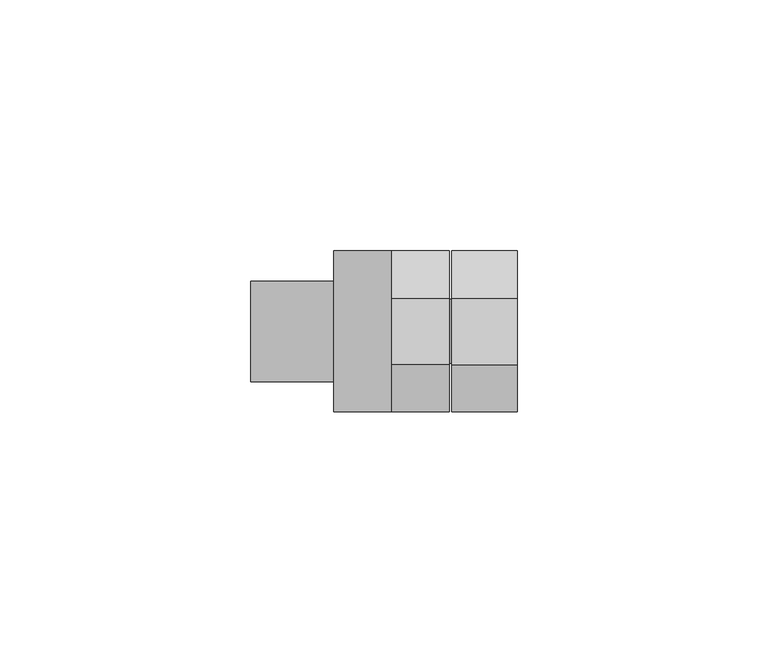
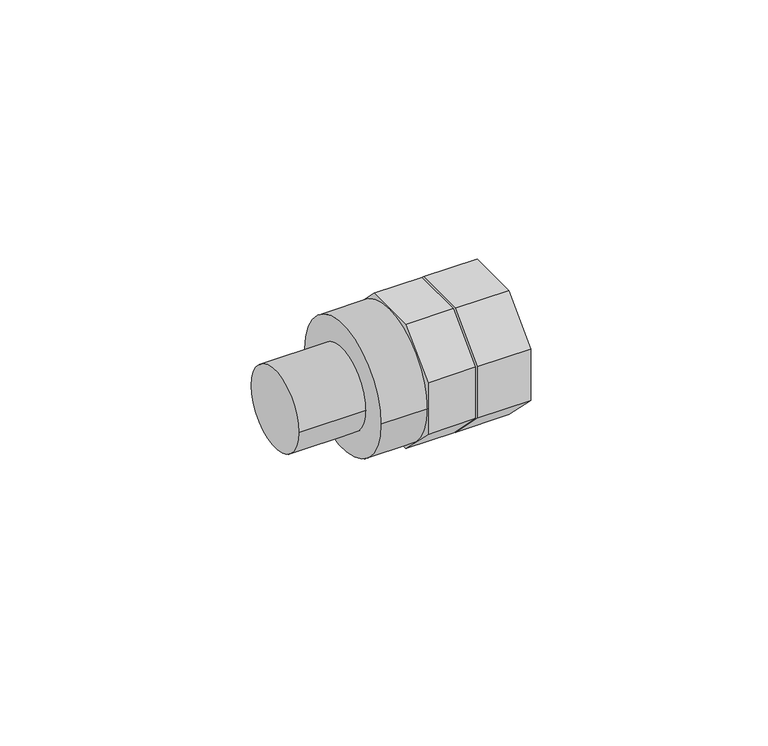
"""IFC4 building model written with IfcOpenShell, lengths in millimetres: pipe fitting geometry, PipeFitting_GirpiHTA_CPVC_AdaptorNipplesB_ForExpansionJoints : PipeFitting_GirpiHTA_CPVC_AdaptorNipplesB_ForExpansionJoints."""

from ifc_helpers import new_model, si_unit, point, frame, origin, origin_2d, place, context, project, spatial, polyline, circle_curve, trimmed, segment, composite_curve, outline, extrude, source, transform, mapped, element, save


def pipe_fitting_7ebbfda9(model_context):
    return source(origin(), model_context, "Body", "SweptSolid", [
        extrude(outline(polyline([(16.0, 6.627417), (16.0, -6.627417), (6.627417, -16.0), (-6.627417, -16.0), (-16.0, -6.627417), (-16.0, 6.627417), (-6.627417, 16.0), (6.627417, 16.0), (16.0, 6.627417)])), frame((31.7187435, 0.0, 0.0), z_axis=(1.0, 0.0, 0.0), x_axis=(0.0, 1.0, 0.0)), (0.0, 0.0, 1.0), 13.0312565),
        extrude(outline(composite_curve([segment(trimmed(circle_curve(origin_2d(), 6.35), [point((-6.35, 0.0))], [point((6.35, 0.0))], False, "CARTESIAN"), True, "CONTINUOUS"), segment(trimmed(circle_curve(origin_2d(), 6.35), [point((6.35, 0.0))], [point((-6.35, 0.0))], False, "CARTESIAN"), True, "CONTINUOUS")], self_intersect=False)), frame((31.25, 0.0, 0.0), z_axis=(1.0, 0.0, 0.0), x_axis=(0.0, 1.0, 0.0)), (0.0, 0.0, 1.0), 13.5),
        extrude(outline(polyline([(6.627417, 16.0), (16.0, 6.627417), (16.0, -6.627417), (6.627417, -16.0), (-6.627417, -16.0), (-16.0, -6.627417), (-16.0, 6.627417), (-6.627417, 16.0), (6.627417, 16.0)])), frame((19.75, 0.0, 0.0), z_axis=(1.0, 0.0, 0.0), x_axis=(0.0, 1.0, 0.0)), (0.0, 0.0, 1.0), 11.5),
        extrude(outline(composite_curve([segment(trimmed(circle_curve(origin_2d(), 16.0), [point((-16.0, 0.0))], [point((16.0, 0.0))], False, "CARTESIAN"), True, "CONTINUOUS"), segment(trimmed(circle_curve(origin_2d(), 16.0), [point((16.0, 0.0))], [point((-16.0, 0.0))], False, "CARTESIAN"), True, "CONTINUOUS")], self_intersect=False)), frame((8.25, 0.0, 0.0), z_axis=(1.0, 0.0, 0.0), x_axis=(0.0, 1.0, 0.0)), (0.0, 0.0, 1.0), 11.5),
        extrude(outline(composite_curve([segment(trimmed(circle_curve(origin_2d(), 10.0), [point((-10.0, 0.0))], [point((10.0, 0.0))], False, "CARTESIAN"), True, "CONTINUOUS"), segment(trimmed(circle_curve(origin_2d(), 10.0), [point((10.0, 0.0))], [point((-10.0, 0.0))], False, "CARTESIAN"), True, "CONTINUOUS")], self_intersect=False)), frame((-8.25, 0.0, 0.0), z_axis=(1.0, 0.0, 0.0), x_axis=(0.0, 1.0, 0.0)), (0.0, 0.0, 1.0), 16.5),
    ])


if __name__ == "__main__":
    model = new_model("IFC4")
    model_context = context("Model", 3, world=origin())
    ifc_project = project(units=[si_unit("LENGTHUNIT", "METRE", prefix="MILLI")], contexts=[model_context])
    site = spatial("IfcSite", under=ifc_project)
    building = spatial("IfcBuilding", under=site)
    placement = place(None, origin())
    pipe_fitting_shape = pipe_fitting_7ebbfda9(model_context)
    element("IfcPipeFitting", 1, ObjectType="PipeFitting_GirpiHTA_CPVC_AdaptorNipplesB_ForExpansionJoints : PipeFitting_GirpiHTA_CPVC_AdaptorNipplesB_ForExpansionJoints", at=placement, inside=building, context=model_context, shape_type="MappedRepresentation", body=[
        mapped(pipe_fitting_shape, transform((0.0, 0.0, 0.0), x_axis=(1.0, 0.0, 0.0), y_axis=(0.0, 1.0, 0.0), z_axis=(0.0, 0.0, 1.0))),
    ])
    save(model, "model.ifc")
